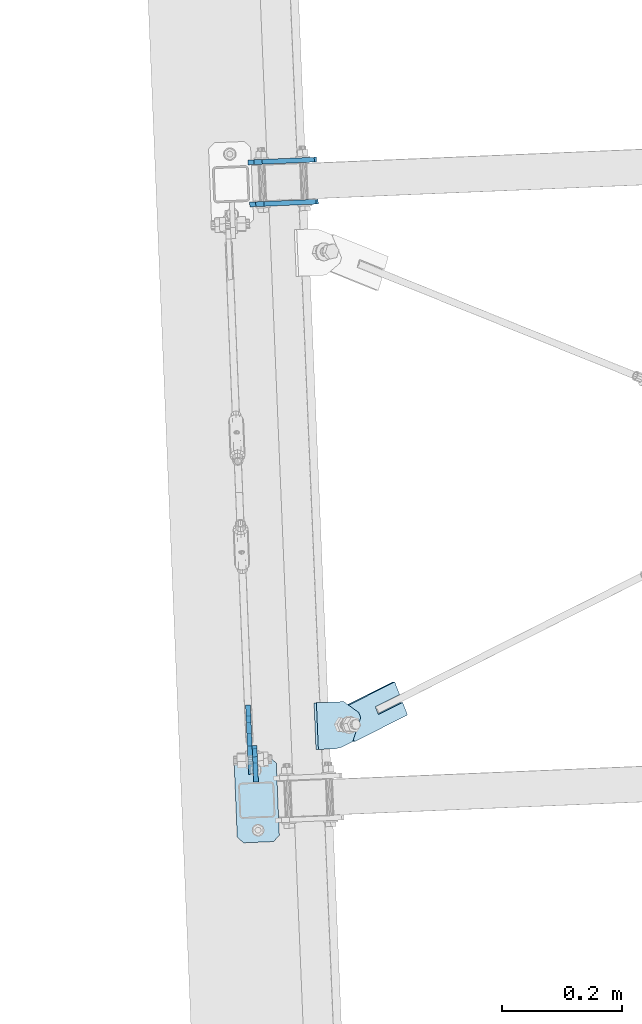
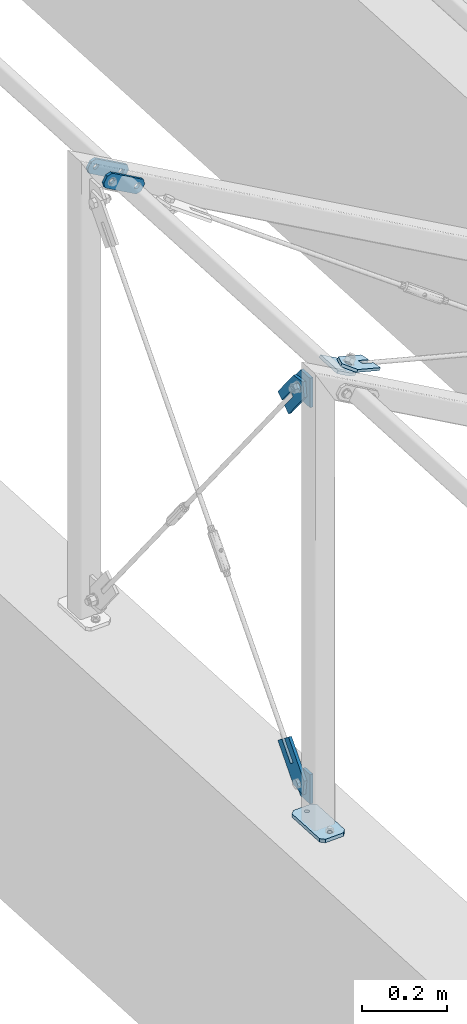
# One storey, part 37 of 288: 9 plates, 38 openings.
"""IFC2X3 building model written with IfcOpenShell, lengths in millimetres."""

from ifc_helpers import new_model, entity, si_unit, converted_unit, point, frame, frame_2d, origin, origin_with_axes, origin_2d_with_axis, place, context, project, spatial, polyline, circle_curve, line_curve, trimmed, segment, composite_curve, circle, outline, extrude, material, layer, layer_set, element, save


model = new_model("IFC2X3")

# Units and contexts
model_context = context("Model", 3, precision=1e-09, world=origin_with_axes())
ifc_project = project(units=[si_unit("LENGTHUNIT", "METRE", prefix="MILLI"), si_unit("AREAUNIT", "SQUARE_METRE"), si_unit("VOLUMEUNIT", "CUBIC_METRE"), converted_unit("PLANEANGLEUNIT", "DEGREE", entity("IfcPlaneAngleMeasure", 0.01745329), si_unit("PLANEANGLEUNIT", "RADIAN"), dimensions=[0, 0, 0, 0, 0, 0, 0])], contexts=[model_context])

# Site, building, storey
site_placement = place(None, origin_with_axes())
site = spatial("IfcSite", under=ifc_project, at=site_placement, Name="Remont ?wietlik?w nad MC w NCPP w Opolu", CompositionType="ELEMENT")
building_placement = place(site_placement, origin_with_axes())
building = spatial("IfcBuilding", under=site, at=building_placement, Name="Konstrukcja 1", CompositionType="ELEMENT")
storey_placement = place(building_placement, origin_with_axes())
storey = spatial("IfcBuildingStorey", under=building, at=storey_placement, Name="Default Storey", CompositionType="ELEMENT", Elevation=0.0)

# Plate, openings
ifc_material = material(Name="S235")
ifc_layer_1 = layer(ifc_material, 8.0)
ifc_layer_set_1 = layer_set([ifc_layer_1], Name="S235")
plate_1_placement = place(None, frame((-310.095435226, 5025.103193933, 1232.680042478), z_axis=(-0.041662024, 0.999131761, 1.7472e-05), x_axis=(0.499566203, 0.020815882, 0.866025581)))
plate_1 = element("IfcPlate", 1, at=plate_1_placement, inside=storey, material=ifc_layer_set_1, Name="-", ObjectType="-", context=model_context, shape_type="SweptSolid", body=[
    extrude(outline(polyline([(0.0, 0.0), (40.0, 0.0), (40.0, 120.0), (0.0, 120.0), (0.0, 0.0)])), origin_with_axes(), (0.0, 0.0, 1.0), 8.0),
])
opening_1_placement = place(plate_1_placement, frame((0.0, 0.0, -0.01), z_axis=(0.0, 0.0, 1.0), x_axis=(1.0, 0.0, 0.0)))
element("IfcOpeningElement", 2, at=opening_1_placement, cuts=plate_1, ObjectType="Opening", context=model_context, shape_type="SweptSolid", body=[
    extrude(outline(composite_curve([segment(trimmed(line_curve((40.0, 0.0), (0.0, 1.0), 10.0), [point((40.0, 0.0))], [point((40.0, 10.0))], True, "CARTESIAN"), True, "CONTINUOUS"), segment(trimmed(circle_curve(frame_2d((30.0, 10.0), x_axis=(-1.0, 0.0)), 10.0), [point((40.0, 10.0))], [point((30.0, 0.0))], False, "CARTESIAN"), True, "CONTINUOUS"), segment(trimmed(line_curve((30.0, 0.0), (1.0, 0.0), 10.0), [point((30.0, 0.0))], [point((40.0, 0.0))], True, "CARTESIAN"), True, "CONTINUOUS")], self_intersect=False)), origin(), (0.0, 0.0, 1.0), 8.02),
])
opening_2_placement = place(plate_1_placement, frame((0.0, 0.0, -0.01), z_axis=(0.0, 0.0, 1.0), x_axis=(1.0, 0.0, 0.0)))
element("IfcOpeningElement", 3, at=opening_2_placement, cuts=plate_1, ObjectType="Opening", context=model_context, shape_type="SweptSolid", body=[
    extrude(outline(composite_curve([segment(trimmed(line_curve((0.0, 0.0), (1.0, 0.0), 10.0), [point((0.0, 0.0))], [point((10.0, 0.0))], True, "CARTESIAN"), True, "CONTINUOUS"), segment(trimmed(circle_curve(frame_2d((10.0, 10.0), x_axis=(-1.0, 0.0)), 10.0), [point((10.0, 0.0))], [point((0.0, 10.0))], False, "CARTESIAN"), True, "CONTINUOUS"), segment(trimmed(line_curve((0.0, 10.0), (0.0, -1.0), 10.0), [point((0.0, 10.0))], [point((0.0, 0.0))], True, "CARTESIAN"), True, "CONTINUOUS")], self_intersect=False)), origin(), (0.0, 0.0, 1.0), 8.02),
])
opening_3_placement = place(plate_1_placement, frame((0.0, 0.0, -0.01), z_axis=(0.0, 0.0, 1.0), x_axis=(1.0, 0.0, 0.0)))
element("IfcOpeningElement", 4, at=opening_3_placement, cuts=plate_1, ObjectType="Opening", context=model_context, shape_type="SweptSolid", body=[
    extrude(outline(composite_curve([segment(trimmed(line_curve((40.0, 120.0), (-1.0, 0.0), 10.0), [point((40.0, 120.0))], [point((30.0, 120.0))], True, "CARTESIAN"), True, "CONTINUOUS"), segment(trimmed(circle_curve(frame_2d((30.0, 110.0), x_axis=(-1.0, 0.0)), 10.0), [point((30.0, 120.0))], [point((40.0, 110.0))], False, "CARTESIAN"), True, "CONTINUOUS"), segment(trimmed(line_curve((40.0, 110.0), (0.0, 1.0), 10.0), [point((40.0, 110.0))], [point((40.0, 120.0))], True, "CARTESIAN"), True, "CONTINUOUS")], self_intersect=False)), origin(), (0.0, 0.0, 1.0), 8.02),
])
opening_4_placement = place(plate_1_placement, frame((0.0, 0.0, -0.01), z_axis=(0.0, 0.0, 1.0), x_axis=(1.0, 0.0, 0.0)))
element("IfcOpeningElement", 5, at=opening_4_placement, cuts=plate_1, ObjectType="Opening", context=model_context, shape_type="SweptSolid", body=[
    extrude(outline(composite_curve([segment(trimmed(line_curve((0.0, 120.0), (0.0, -1.0), 10.0), [point((0.0, 120.0))], [point((0.0, 110.0))], True, "CARTESIAN"), True, "CONTINUOUS"), segment(trimmed(circle_curve(frame_2d((10.0, 110.0), x_axis=(-1.0, 0.0)), 10.0), [point((0.0, 110.0))], [point((10.0, 120.0))], False, "CARTESIAN"), True, "CONTINUOUS"), segment(trimmed(line_curve((10.0, 120.0), (-1.0, 0.0), 10.0), [point((10.0, 120.0))], [point((0.0, 120.0))], True, "CARTESIAN"), True, "CONTINUOUS")], self_intersect=False)), origin(), (0.0, 0.0, 1.0), 8.02),
])
opening_5_placement = place(plate_1_placement, frame((12.999, 20.0, 8.5), z_axis=(0.0, 0.0, 1.0), x_axis=(1.0, 0.0, 0.0)))
element("IfcOpeningElement", 6, at=opening_5_placement, cuts=plate_1, ObjectType="Opening", context=model_context, shape_type="SweptSolid", body=[
    extrude(circle(Radius=7.001, at=frame_2d((7.001, 0.0), x_axis=(1.0, 0.0))), origin(), (0.0, 0.0, -1.0), 9.0),
])
opening_6_placement = place(plate_1_placement, frame((12.999, 100.0, 8.5), z_axis=(0.0, 0.0, 1.0), x_axis=(1.0, 0.0, 0.0)))
element("IfcOpeningElement", 7, at=opening_6_placement, cuts=plate_1, ObjectType="Opening", context=model_context, shape_type="SweptSolid", body=[
    extrude(circle(Radius=7.001, at=frame_2d((7.001, 0.0), x_axis=(1.0, 0.0))), origin(), (0.0, 0.0, -1.0), 9.0),
])

plate_2_placement = place(None, frame((-307.179093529, 4955.163970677, 1232.678819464), z_axis=(-0.041662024, 0.999131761, 1.7472e-05), x_axis=(0.499566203, 0.020815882, 0.866025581)))
plate_2 = element("IfcPlate", 8, at=plate_2_placement, inside=storey, material=ifc_layer_set_1, Name="-", ObjectType="-", context=model_context, shape_type="SweptSolid", body=[
    extrude(outline(polyline([(0.0, 0.0), (40.0, 0.0), (40.0, 120.0), (0.0, 120.0), (0.0, 0.0)])), origin_with_axes(), (0.0, 0.0, 1.0), 8.0),
])
opening_7_placement = place(plate_2_placement, frame((0.0, 0.0, -0.01), z_axis=(0.0, 0.0, 1.0), x_axis=(1.0, 0.0, 0.0)))
element("IfcOpeningElement", 9, at=opening_7_placement, cuts=plate_2, ObjectType="Opening", context=model_context, shape_type="SweptSolid", body=[
    extrude(outline(composite_curve([segment(trimmed(line_curve((40.0, 0.0), (0.0, 1.0), 10.0), [point((40.0, 0.0))], [point((40.0, 10.0))], True, "CARTESIAN"), True, "CONTINUOUS"), segment(trimmed(circle_curve(frame_2d((30.0, 10.0), x_axis=(-1.0, 0.0)), 10.0), [point((40.0, 10.0))], [point((30.0, 0.0))], False, "CARTESIAN"), True, "CONTINUOUS"), segment(trimmed(line_curve((30.0, 0.0), (1.0, 0.0), 10.0), [point((30.0, 0.0))], [point((40.0, 0.0))], True, "CARTESIAN"), True, "CONTINUOUS")], self_intersect=False)), origin(), (0.0, 0.0, 1.0), 8.02),
])
opening_8_placement = place(plate_2_placement, frame((0.0, 0.0, -0.01), z_axis=(0.0, 0.0, 1.0), x_axis=(1.0, 0.0, 0.0)))
element("IfcOpeningElement", 10, at=opening_8_placement, cuts=plate_2, ObjectType="Opening", context=model_context, shape_type="SweptSolid", body=[
    extrude(outline(composite_curve([segment(trimmed(line_curve((0.0, 0.0), (1.0, 0.0), 10.0), [point((0.0, 0.0))], [point((10.0, 0.0))], True, "CARTESIAN"), True, "CONTINUOUS"), segment(trimmed(circle_curve(frame_2d((10.0, 10.0), x_axis=(-1.0, 0.0)), 10.0), [point((10.0, 0.0))], [point((0.0, 10.0))], False, "CARTESIAN"), True, "CONTINUOUS"), segment(trimmed(line_curve((0.0, 10.0), (0.0, -1.0), 10.0), [point((0.0, 10.0))], [point((0.0, 0.0))], True, "CARTESIAN"), True, "CONTINUOUS")], self_intersect=False)), origin(), (0.0, 0.0, 1.0), 8.02),
])
opening_9_placement = place(plate_2_placement, frame((0.0, 0.0, -0.01), z_axis=(0.0, 0.0, 1.0), x_axis=(1.0, 0.0, 0.0)))
element("IfcOpeningElement", 11, at=opening_9_placement, cuts=plate_2, ObjectType="Opening", context=model_context, shape_type="SweptSolid", body=[
    extrude(outline(composite_curve([segment(trimmed(line_curve((40.0, 120.0), (-1.0, 0.0), 10.0), [point((40.0, 120.0))], [point((30.0, 120.0))], True, "CARTESIAN"), True, "CONTINUOUS"), segment(trimmed(circle_curve(frame_2d((30.0, 110.0), x_axis=(-1.0, 0.0)), 10.0), [point((30.0, 120.0))], [point((40.0, 110.0))], False, "CARTESIAN"), True, "CONTINUOUS"), segment(trimmed(line_curve((40.0, 110.0), (0.0, 1.0), 10.0), [point((40.0, 110.0))], [point((40.0, 120.0))], True, "CARTESIAN"), True, "CONTINUOUS")], self_intersect=False)), origin(), (0.0, 0.0, 1.0), 8.02),
])
opening_10_placement = place(plate_2_placement, frame((0.0, 0.0, -0.01), z_axis=(0.0, 0.0, 1.0), x_axis=(1.0, 0.0, 0.0)))
element("IfcOpeningElement", 12, at=opening_10_placement, cuts=plate_2, ObjectType="Opening", context=model_context, shape_type="SweptSolid", body=[
    extrude(outline(composite_curve([segment(trimmed(line_curve((0.0, 120.0), (0.0, -1.0), 10.0), [point((0.0, 120.0))], [point((0.0, 110.0))], True, "CARTESIAN"), True, "CONTINUOUS"), segment(trimmed(circle_curve(frame_2d((10.0, 110.0), x_axis=(-1.0, 0.0)), 10.0), [point((0.0, 110.0))], [point((10.0, 120.0))], False, "CARTESIAN"), True, "CONTINUOUS"), segment(trimmed(line_curve((10.0, 120.0), (-1.0, 0.0), 10.0), [point((10.0, 120.0))], [point((0.0, 120.0))], True, "CARTESIAN"), True, "CONTINUOUS")], self_intersect=False)), origin(), (0.0, 0.0, 1.0), 8.02),
])
opening_11_placement = place(plate_2_placement, frame((12.999, 20.0, 8.5), z_axis=(0.0, 0.0, 1.0), x_axis=(1.0, 0.0, 0.0)))
element("IfcOpeningElement", 13, at=opening_11_placement, cuts=plate_2, ObjectType="Opening", context=model_context, shape_type="SweptSolid", body=[
    extrude(circle(Radius=7.001, at=frame_2d((7.001, 0.0), x_axis=(1.0, 0.0))), origin(), (0.0, 0.0, -1.0), 9.0),
])
opening_12_placement = place(plate_2_placement, frame((12.999, 100.0, 8.5), z_axis=(0.0, 0.0, 1.0), x_axis=(1.0, 0.0, 0.0)))
element("IfcOpeningElement", 14, at=opening_12_placement, cuts=plate_2, ObjectType="Opening", context=model_context, shape_type="SweptSolid", body=[
    extrude(circle(Radius=7.001, at=frame_2d((7.001, 0.0), x_axis=(1.0, 0.0))), origin(), (0.0, 0.0, -1.0), 9.0),
])

ifc_layer_2 = layer(ifc_material, 10.0)
ifc_layer_set_2 = layer_set([ifc_layer_2], Name="S235")
plate_3_placement = place(None, frame((-252.746744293, 3901.059228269, 10.00000004), z_axis=(0.0, 0.0, -1.0), x_axis=(-0.999131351, -0.041671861, 0.0)))
plate_3 = element("IfcPlate", 15, at=plate_3_placement, inside=storey, material=ifc_layer_set_2, Name="Baseplate", ObjectType="Baseplate", context=model_context, shape_type="SweptSolid", body=[
    extrude(outline(polyline([(0.0, 0.0), (70.0, 0.0), (70.0, 140.0), (0.0, 140.0), (0.0, 0.0)])), origin_with_axes(), (0.0, 0.0, 1.0), 10.0),
])
opening_13_placement = place(plate_3_placement, frame((0.0, 0.0, -0.01), z_axis=(0.0, 0.0, 1.0), x_axis=(1.0, 0.0, 0.0)))
element("IfcOpeningElement", 16, at=opening_13_placement, cuts=plate_3, ObjectType="Opening", context=model_context, shape_type="SweptSolid", body=[
    extrude(outline(composite_curve([segment(trimmed(line_curve((70.0, 0.0), (0.0, 1.0), 10.0), [point((70.0, 0.0))], [point((70.0, 10.0))], True, "CARTESIAN"), True, "CONTINUOUS"), segment(trimmed(circle_curve(frame_2d((60.0, 10.0), x_axis=(-1.0, 0.0)), 10.0), [point((70.0, 10.0))], [point((60.0, 0.0))], False, "CARTESIAN"), True, "CONTINUOUS"), segment(trimmed(line_curve((60.0, 0.0), (1.0, 0.0), 10.0), [point((60.0, 0.0))], [point((70.0, 0.0))], True, "CARTESIAN"), True, "CONTINUOUS")], self_intersect=False)), origin(), (0.0, 0.0, 1.0), 10.02),
])
opening_14_placement = place(plate_3_placement, frame((0.0, 0.0, -0.01), z_axis=(0.0, 0.0, 1.0), x_axis=(1.0, 0.0, 0.0)))
element("IfcOpeningElement", 17, at=opening_14_placement, cuts=plate_3, ObjectType="Opening", context=model_context, shape_type="SweptSolid", body=[
    extrude(outline(composite_curve([segment(trimmed(line_curve((0.0, 0.0), (1.0, 0.0), 10.0), [point((0.0, 0.0))], [point((10.0, 0.0))], True, "CARTESIAN"), True, "CONTINUOUS"), segment(trimmed(circle_curve(frame_2d((10.0, 10.0), x_axis=(-1.0, 0.0)), 10.0), [point((10.0, 0.0))], [point((0.0, 10.0))], False, "CARTESIAN"), True, "CONTINUOUS"), segment(trimmed(line_curve((0.0, 10.0), (0.0, -1.0), 10.0), [point((0.0, 10.0))], [point((0.0, 0.0))], True, "CARTESIAN"), True, "CONTINUOUS")], self_intersect=False)), origin(), (0.0, 0.0, 1.0), 10.02),
])
opening_15_placement = place(plate_3_placement, frame((0.0, 0.0, -0.01), z_axis=(0.0, 0.0, 1.0), x_axis=(1.0, 0.0, 0.0)))
element("IfcOpeningElement", 18, at=opening_15_placement, cuts=plate_3, ObjectType="Opening", context=model_context, shape_type="SweptSolid", body=[
    extrude(outline(composite_curve([segment(trimmed(line_curve((70.0, 140.0), (-1.0, 0.0), 10.0), [point((70.0, 140.0))], [point((60.0, 140.0))], True, "CARTESIAN"), True, "CONTINUOUS"), segment(trimmed(circle_curve(frame_2d((60.0, 130.0), x_axis=(-1.0, 0.0)), 10.0), [point((60.0, 140.0))], [point((70.0, 130.0))], False, "CARTESIAN"), True, "CONTINUOUS"), segment(trimmed(line_curve((70.0, 130.0), (0.0, 1.0), 10.0), [point((70.0, 130.0))], [point((70.0, 140.0))], True, "CARTESIAN"), True, "CONTINUOUS")], self_intersect=False)), origin(), (0.0, 0.0, 1.0), 10.02),
])
opening_16_placement = place(plate_3_placement, frame((0.0, 0.0, -0.01), z_axis=(0.0, 0.0, 1.0), x_axis=(1.0, 0.0, 0.0)))
element("IfcOpeningElement", 19, at=opening_16_placement, cuts=plate_3, ObjectType="Opening", context=model_context, shape_type="SweptSolid", body=[
    extrude(outline(composite_curve([segment(trimmed(line_curve((0.0, 140.0), (0.0, -1.0), 10.0), [point((0.0, 140.0))], [point((0.0, 130.0))], True, "CARTESIAN"), True, "CONTINUOUS"), segment(trimmed(circle_curve(frame_2d((10.0, 130.0), x_axis=(-1.0, 0.0)), 10.0), [point((0.0, 130.0))], [point((10.0, 140.0))], False, "CARTESIAN"), True, "CONTINUOUS"), segment(trimmed(line_curve((10.0, 140.0), (-1.0, 0.0), 10.0), [point((10.0, 140.0))], [point((0.0, 140.0))], True, "CARTESIAN"), True, "CONTINUOUS")], self_intersect=False)), origin(), (0.0, 0.0, 1.0), 10.02),
])
opening_17_placement = place(plate_3_placement, frame((35.0, 120.0, 10.5), z_axis=(0.0, 0.0, -1.0), x_axis=(1.0, 0.0, 0.0)))
element("IfcOpeningElement", 20, at=opening_17_placement, cuts=plate_3, ObjectType="Opening", context=model_context, shape_type="SweptSolid", body=[
    extrude(circle(Radius=6.001, at=origin_2d_with_axis()), origin(), (0.0, 0.0, 1.0), 11.0),
])
opening_18_placement = place(plate_3_placement, frame((35.0, 20.0, 10.5), z_axis=(0.0, 0.0, -1.0), x_axis=(1.0, 0.0, 0.0)))
element("IfcOpeningElement", 21, at=opening_18_placement, cuts=plate_3, ObjectType="Opening", context=model_context, shape_type="SweptSolid", body=[
    extrude(circle(Radius=6.001, at=origin_2d_with_axis()), origin(), (0.0, 0.0, 1.0), 11.0),
])

plate_4_placement = place(None, frame((-301.23972739, 4127.80552716, 1151.590299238), z_axis=(-0.999130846, -0.041683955, 0.0), x_axis=(0.032787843, -0.785898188, -0.617486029)))
plate_4 = element("IfcPlate", 22, at=plate_4_placement, inside=storey, material=ifc_layer_set_1, Name="Tab_Plate#2", ObjectType="Tab_Plate#2", context=model_context, shape_type="SweptSolid", body=[
    extrude(outline(polyline([(0.0, 0.0), (60.0, 0.0), (60.0, 140.0), (0.0, 140.0), (0.0, 0.0)])), origin_with_axes(), (0.0, 0.0, 1.0), 8.0),
])
opening_19_placement = place(plate_4_placement, frame((0.0, 0.0, -0.01), z_axis=(0.0, 0.0, 1.0), x_axis=(1.0, 0.0, 0.0)))
element("IfcOpeningElement", 23, at=opening_19_placement, cuts=plate_4, ObjectType="Opening", context=model_context, shape_type="SweptSolid", body=[
    extrude(outline(composite_curve([segment(trimmed(line_curve((60.0, 140.0), (-1.0, 0.0), 30.0), [point((60.0, 140.0))], [point((30.0, 140.0))], True, "CARTESIAN"), True, "CONTINUOUS"), segment(trimmed(circle_curve(frame_2d((30.0, 110.0), x_axis=(-1.0, 0.0)), 30.0), [point((30.0, 140.0))], [point((60.0, 110.0))], False, "CARTESIAN"), True, "CONTINUOUS"), segment(trimmed(line_curve((60.0, 110.0), (0.0, 1.0), 30.0), [point((60.0, 110.0))], [point((60.0, 140.0))], True, "CARTESIAN"), True, "CONTINUOUS")], self_intersect=False)), origin(), (0.0, 0.0, 1.0), 8.02),
])
opening_20_placement = place(plate_4_placement, frame((0.0, 0.0, -0.01), z_axis=(0.0, 0.0, 1.0), x_axis=(1.0, 0.0, 0.0)))
element("IfcOpeningElement", 24, at=opening_20_placement, cuts=plate_4, ObjectType="Opening", context=model_context, shape_type="SweptSolid", body=[
    extrude(outline(composite_curve([segment(trimmed(line_curve((0.0, 140.0), (0.0, -1.0), 30.0), [point((0.0, 140.0))], [point((0.0, 110.0))], True, "CARTESIAN"), True, "CONTINUOUS"), segment(trimmed(circle_curve(frame_2d((30.0, 110.0), x_axis=(-1.0, 0.0)), 30.0), [point((0.0, 110.0))], [point((30.0, 140.0))], False, "CARTESIAN"), True, "CONTINUOUS"), segment(trimmed(line_curve((30.0, 140.0), (-1.0, 0.0), 30.0), [point((30.0, 140.0))], [point((0.0, 140.0))], True, "CARTESIAN"), True, "CONTINUOUS")], self_intersect=False)), origin(), (0.0, 0.0, 1.0), 8.02),
])
opening_21_placement = place(plate_4_placement, frame((0.0, 0.0, 8.1), z_axis=(0.0, 0.0, -1.0), x_axis=(-0.786581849, -0.617486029, 0.0)))
element("IfcOpeningElement", 25, at=opening_21_placement, cuts=plate_4, ObjectType="Opening", context=model_context, shape_type="SweptSolid", body=[
    extrude(outline(polyline([(-55.757861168, 33.780718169), (-66.771580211, 25.134678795), (-29.103697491, -22.848387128), (-18.089978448, -14.202347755), (-55.757861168, 33.780718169)])), origin(), (0.0, 0.0, 1.0), 8.2),
])
opening_22_placement = place(plate_4_placement, frame((30.0, 110.0, 8.5), z_axis=(0.0, 0.0, -1.0), x_axis=(0.0, -1.0, 0.0)))
element("IfcOpeningElement", 26, at=opening_22_placement, cuts=plate_4, ObjectType="Opening", context=model_context, shape_type="SweptSolid", body=[
    extrude(circle(Radius=9.001, at=origin_2d_with_axis()), origin(), (0.0, 0.0, 1.0), 9.0),
])

plate_5_placement = place(None, frame((-297.21331604, 4031.295688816, 1177.467685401), z_axis=(0.999130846, 0.041683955, 0.0), x_axis=(-0.032787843, 0.785898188, 0.617486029)))
plate_5 = element("IfcPlate", 27, at=plate_5_placement, inside=storey, material=ifc_layer_set_1, Name="Gusset#2", ObjectType="Gusset#2", context=model_context, shape_type="SweptSolid", body=[
    extrude(outline(polyline([(0.0, 0.0), (60.0, 0.0), (60.0, 60.0), (26.867532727, 86.009798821), (-25.152005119, 19.744940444), (0.0, 0.0)])), origin_with_axes(), (0.0, 0.0, 1.0), 8.0),
])
opening_23_placement = place(plate_5_placement, frame((30.0, 30.0, -0.5), z_axis=(0.0, 0.0, 1.0), x_axis=(0.0, -1.0, 0.0)))
element("IfcOpeningElement", 28, at=opening_23_placement, cuts=plate_5, ObjectType="Opening", context=model_context, shape_type="SweptSolid", body=[
    extrude(circle(Radius=9.001, at=origin_2d_with_axis()), origin(), (0.0, 0.0, 1.0), 9.0),
])
opening_24_placement = place(plate_5_placement, frame((0.0, 0.0, -0.01), z_axis=(0.0, 0.0, 1.0), x_axis=(1.0, 0.0, 0.0)))
element("IfcOpeningElement", 29, at=opening_24_placement, cuts=plate_5, ObjectType="Opening", context=model_context, shape_type="SweptSolid", body=[
    extrude(outline(composite_curve([segment(trimmed(line_curve((60.0, 0.0), (0.0, 1.0), 30.0), [point((60.0, 0.0))], [point((60.0, 30.0))], True, "CARTESIAN"), True, "CONTINUOUS"), segment(trimmed(circle_curve(frame_2d((30.0, 30.0), x_axis=(-1.0, 0.0)), 30.0), [point((60.0, 30.0))], [point((30.0, 0.0))], False, "CARTESIAN"), True, "CONTINUOUS"), segment(trimmed(line_curve((30.0, 0.0), (1.0, 0.0), 30.0), [point((30.0, 0.0))], [point((60.0, 0.0))], True, "CARTESIAN"), True, "CONTINUOUS")], self_intersect=False)), origin(), (0.0, 0.0, 1.0), 8.02),
])

plate_6_placement = place(None, frame((-309.241332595, 4127.471795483, 153.409700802), z_axis=(0.999131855, 0.041659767, 0.0), x_axis=(0.032768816, -0.785898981, 0.617486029)))
plate_6 = element("IfcPlate", 30, at=plate_6_placement, inside=storey, material=ifc_layer_set_1, Name="Tab_Plate#1", ObjectType="Tab_Plate#1", context=model_context, shape_type="SweptSolid", body=[
    extrude(outline(polyline([(0.0, 0.0), (60.0, 0.0), (60.0, 140.0), (0.0, 140.0), (0.0, 0.0)])), origin_with_axes(), (0.0, 0.0, 1.0), 8.0),
])
opening_25_placement = place(plate_6_placement, frame((0.0, 0.0, -0.01), z_axis=(0.0, 0.0, 1.0), x_axis=(1.0, 0.0, 0.0)))
element("IfcOpeningElement", 31, at=opening_25_placement, cuts=plate_6, ObjectType="Opening", context=model_context, shape_type="SweptSolid", body=[
    extrude(outline(composite_curve([segment(trimmed(line_curve((60.0, 140.0), (-1.0, 0.0), 30.0), [point((60.0, 140.0))], [point((30.0, 140.0))], True, "CARTESIAN"), True, "CONTINUOUS"), segment(trimmed(circle_curve(frame_2d((30.0, 110.0), x_axis=(-1.0, 0.0)), 30.0), [point((30.0, 140.0))], [point((60.0, 110.0))], False, "CARTESIAN"), True, "CONTINUOUS"), segment(trimmed(line_curve((60.0, 110.0), (0.0, 1.0), 30.0), [point((60.0, 110.0))], [point((60.0, 140.0))], True, "CARTESIAN"), True, "CONTINUOUS")], self_intersect=False)), origin(), (0.0, 0.0, 1.0), 8.02),
])
opening_26_placement = place(plate_6_placement, frame((0.0, 0.0, -0.01), z_axis=(0.0, 0.0, 1.0), x_axis=(1.0, 0.0, 0.0)))
element("IfcOpeningElement", 32, at=opening_26_placement, cuts=plate_6, ObjectType="Opening", context=model_context, shape_type="SweptSolid", body=[
    extrude(outline(composite_curve([segment(trimmed(line_curve((0.0, 140.0), (0.0, -1.0), 30.0), [point((0.0, 140.0))], [point((0.0, 110.0))], True, "CARTESIAN"), True, "CONTINUOUS"), segment(trimmed(circle_curve(frame_2d((30.0, 110.0), x_axis=(-1.0, 0.0)), 30.0), [point((0.0, 110.0))], [point((30.0, 140.0))], False, "CARTESIAN"), True, "CONTINUOUS"), segment(trimmed(line_curve((30.0, 140.0), (-1.0, 0.0), 30.0), [point((30.0, 140.0))], [point((0.0, 140.0))], True, "CARTESIAN"), True, "CONTINUOUS")], self_intersect=False)), origin(), (0.0, 0.0, 1.0), 8.02),
])
opening_27_placement = place(plate_6_placement, frame((0.0, 0.0, 8.1), z_axis=(0.0, 0.0, -1.0), x_axis=(0.786581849, 0.617486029, 0.0)))
element("IfcOpeningElement", 33, at=opening_27_placement, cuts=plate_6, ObjectType="Opening", context=model_context, shape_type="SweptSolid", body=[
    extrude(outline(polyline([(55.757861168, -33.780718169), (66.771580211, -25.134678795), (29.103697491, 22.848387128), (18.089978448, 14.202347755), (55.757861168, -33.780718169)])), origin(), (0.0, 0.0, 1.0), 8.2),
])
opening_28_placement = place(plate_6_placement, frame((30.0, 110.0, 8.5), z_axis=(0.0, 0.0, -1.0), x_axis=(0.0, -1.0, 0.0)))
element("IfcOpeningElement", 34, at=opening_28_placement, cuts=plate_6, ObjectType="Opening", context=model_context, shape_type="SweptSolid", body=[
    extrude(circle(Radius=9.001, at=origin_2d_with_axis()), origin(), (0.0, 0.0, 1.0), 9.0),
])

plate_7_placement = place(None, frame((-289.231148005, 4031.628415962, 127.532314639), z_axis=(-0.999131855, -0.041659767, 0.0), x_axis=(-0.032768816, 0.785898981, -0.617486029)))
plate_7 = element("IfcPlate", 35, at=plate_7_placement, inside=storey, material=ifc_layer_set_1, Name="Gusset#1", ObjectType="Gusset#1", context=model_context, shape_type="SweptSolid", body=[
    extrude(outline(polyline([(0.0, 0.0), (60.0, 0.0), (60.0, 60.0), (26.867685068, 86.009679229), (-25.151852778, 19.744820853), (0.0, 0.0)])), origin_with_axes(), (0.0, 0.0, 1.0), 8.0),
])
opening_29_placement = place(plate_7_placement, frame((30.0, 30.0, -0.5), z_axis=(0.0, 0.0, 1.0), x_axis=(0.0, -1.0, 0.0)))
element("IfcOpeningElement", 36, at=opening_29_placement, cuts=plate_7, ObjectType="Opening", context=model_context, shape_type="SweptSolid", body=[
    extrude(circle(Radius=9.001, at=origin_2d_with_axis()), origin(), (0.0, 0.0, 1.0), 9.0),
])
opening_30_placement = place(plate_7_placement, frame((0.0, 0.0, -0.01), z_axis=(0.0, 0.0, 1.0), x_axis=(1.0, 0.0, 0.0)))
element("IfcOpeningElement", 37, at=opening_30_placement, cuts=plate_7, ObjectType="Opening", context=model_context, shape_type="SweptSolid", body=[
    extrude(outline(composite_curve([segment(trimmed(line_curve((60.0, 0.0), (0.0, 1.0), 30.0), [point((60.0, 0.0))], [point((60.0, 30.0))], True, "CARTESIAN"), True, "CONTINUOUS"), segment(trimmed(circle_curve(frame_2d((30.0, 30.0), x_axis=(-1.0, 0.0)), 30.0), [point((60.0, 30.0))], [point((30.0, 0.0))], False, "CARTESIAN"), True, "CONTINUOUS"), segment(trimmed(line_curve((30.0, 0.0), (1.0, 0.0), 30.0), [point((30.0, 0.0))], [point((60.0, 0.0))], True, "CARTESIAN"), True, "CONTINUOUS")], self_intersect=False)), origin(), (0.0, 0.0, 1.0), 8.02),
])

plate_8_placement = place(None, frame((-44.126411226, 4110.844069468, 1128.554367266), z_axis=(0.500767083, 0.020865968, 0.865330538), x_axis=(-0.354146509, 0.917144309, 0.182829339)))
plate_8 = element("IfcPlate", 38, at=plate_8_placement, inside=storey, material=ifc_layer_set_1, Name="Tab_Plate#1", ObjectType="Tab_Plate#1", context=model_context, shape_type="SweptSolid", body=[
    extrude(outline(polyline([(0.0, 0.0), (60.0, 0.0), (60.0, 140.0), (0.0, 140.0), (0.0, 0.0)])), origin_with_axes(), (0.0, 0.0, 1.0), 8.0),
])
opening_31_placement = place(plate_8_placement, frame((0.0, 0.0, -0.01), z_axis=(0.0, 0.0, 1.0), x_axis=(1.0, 0.0, 0.0)))
element("IfcOpeningElement", 39, at=opening_31_placement, cuts=plate_8, ObjectType="Opening", context=model_context, shape_type="SweptSolid", body=[
    extrude(outline(composite_curve([segment(trimmed(line_curve((60.0, 140.0), (-1.0, 0.0), 30.0), [point((60.0, 140.0))], [point((30.0, 140.0))], True, "CARTESIAN"), True, "CONTINUOUS"), segment(trimmed(circle_curve(frame_2d((30.0, 110.0), x_axis=(-1.0, 0.0)), 30.0), [point((30.0, 140.0))], [point((60.0, 110.0))], False, "CARTESIAN"), True, "CONTINUOUS"), segment(trimmed(line_curve((60.0, 110.0), (0.0, 1.0), 30.0), [point((60.0, 110.0))], [point((60.0, 140.0))], True, "CARTESIAN"), True, "CONTINUOUS")], self_intersect=False)), origin(), (0.0, 0.0, 1.0), 8.02),
])
opening_32_placement = place(plate_8_placement, frame((0.0, 0.0, -0.01), z_axis=(0.0, 0.0, 1.0), x_axis=(1.0, 0.0, 0.0)))
element("IfcOpeningElement", 40, at=opening_32_placement, cuts=plate_8, ObjectType="Opening", context=model_context, shape_type="SweptSolid", body=[
    extrude(outline(composite_curve([segment(trimmed(line_curve((0.0, 140.0), (0.0, -1.0), 30.0), [point((0.0, 140.0))], [point((0.0, 110.0))], True, "CARTESIAN"), True, "CONTINUOUS"), segment(trimmed(circle_curve(frame_2d((30.0, 110.0), x_axis=(-1.0, 0.0)), 30.0), [point((0.0, 110.0))], [point((30.0, 140.0))], False, "CARTESIAN"), True, "CONTINUOUS"), segment(trimmed(line_curve((30.0, 140.0), (-1.0, 0.0), 30.0), [point((30.0, 140.0))], [point((0.0, 140.0))], True, "CARTESIAN"), True, "CONTINUOUS")], self_intersect=False)), origin(), (0.0, 0.0, 1.0), 8.02),
])
opening_33_placement = place(plate_8_placement, frame((0.0, 0.0, 8.1), z_axis=(0.0, 0.0, -1.0), x_axis=(-0.931092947, 0.364782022, 0.0)))
element("IfcOpeningElement", 41, at=opening_33_placement, cuts=plate_8, ObjectType="Opening", context=model_context, shape_type="SweptSolid", body=[
    extrude(outline(polyline([(-2.809958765, 55.876293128), (-15.84712221, 60.983971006), (-34.451734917, 13.496368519), (-21.414571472, 8.388690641), (-2.809958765, 55.876293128)])), origin(), (0.0, 0.0, 1.0), 8.2),
])
opening_34_placement = place(plate_8_placement, frame((30.0, 110.0, 8.5), z_axis=(0.0, 0.0, -1.0), x_axis=(0.0, -1.0, 0.0)))
element("IfcOpeningElement", 42, at=opening_34_placement, cuts=plate_8, ObjectType="Opening", context=model_context, shape_type="SweptSolid", body=[
    extrude(circle(Radius=9.001, at=origin_2d_with_axis()), origin(), (0.0, 0.0, 1.0), 9.0),
])

plate_9_placement = place(None, frame((-128.560647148, 4134.032031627, 1176.857350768), z_axis=(-0.500767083, -0.020865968, -0.865330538), x_axis=(0.354146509, -0.917144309, -0.182829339)))
plate_9 = element("IfcPlate", 43, at=plate_9_placement, inside=storey, material=ifc_layer_set_1, Name="Gusset#1", ObjectType="Gusset#1", context=model_context, shape_type="SweptSolid", body=[
    extrude(outline(polyline([(0.0, 0.0), (60.0, 0.0), (60.0, 60.0), (45.826198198, 96.181831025), (-26.568490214, 67.822073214), (0.0, 0.0)])), origin_with_axes(), (0.0, 0.0, 1.0), 8.0),
])
opening_35_placement = place(plate_9_placement, frame((30.0, 30.0, -0.5), z_axis=(0.0, 0.0, 1.0), x_axis=(0.0, -1.0, 0.0)))
element("IfcOpeningElement", 44, at=opening_35_placement, cuts=plate_9, ObjectType="Opening", context=model_context, shape_type="SweptSolid", body=[
    extrude(circle(Radius=9.001, at=origin_2d_with_axis()), origin(), (0.0, 0.0, 1.0), 9.0),
])
opening_36_placement = place(plate_9_placement, frame((0.0, 0.0, -0.01), z_axis=(0.0, 0.0, 1.0), x_axis=(1.0, 0.0, 0.0)))
element("IfcOpeningElement", 45, at=opening_36_placement, cuts=plate_9, ObjectType="Opening", context=model_context, shape_type="SweptSolid", body=[
    extrude(outline(composite_curve([segment(trimmed(line_curve((0.0, 0.0), (1.0, 0.0), 20.467615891), [point((0.0, 0.0))], [point((20.467615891, 0.0))], True, "CARTESIAN"), True, "CONTINUOUS"), segment(trimmed(circle_curve(frame_2d((20.467615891, 30.0), x_axis=(-1.0, 0.0)), 30.0), [point((20.467615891, 0.0))], [point((-7.465553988, 19.057513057))], False, "CARTESIAN"), True, "CONTINUOUS"), segment(trimmed(line_curve((-7.465553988, 19.057513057), (0.364749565, -0.931105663), 20.467615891), [point((-7.465553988, 19.057513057))], [point((0.0, 0.0))], True, "CARTESIAN"), True, "CONTINUOUS")], self_intersect=False)), origin(), (0.0, 0.0, 1.0), 8.02),
])
opening_37_placement = place(plate_9_placement, frame((0.0, 0.0, -0.01), z_axis=(0.0, 0.0, 1.0), x_axis=(1.0, 0.0, 0.0)))
element("IfcOpeningElement", 46, at=opening_37_placement, cuts=plate_9, ObjectType="Opening", context=model_context, shape_type="SweptSolid", body=[
    extrude(outline(composite_curve([segment(trimmed(line_curve((60.0, 0.0), (0.0, 1.0), 30.0), [point((60.0, 0.0))], [point((60.0, 30.0))], True, "CARTESIAN"), True, "CONTINUOUS"), segment(trimmed(circle_curve(frame_2d((30.0, 30.0), x_axis=(-1.0, 0.0)), 30.0), [point((60.0, 30.0))], [point((30.0, 0.0))], False, "CARTESIAN"), True, "CONTINUOUS"), segment(trimmed(line_curve((30.0, 0.0), (1.0, 0.0), 30.0), [point((30.0, 0.0))], [point((60.0, 0.0))], True, "CARTESIAN"), True, "CONTINUOUS")], self_intersect=False)), origin(), (0.0, 0.0, 1.0), 8.02),
])
opening_38_placement = place(plate_9_placement, frame((0.0, 0.0, -0.01), z_axis=(0.0, 0.0, 1.0), x_axis=(1.0, 0.0, 0.0)))
element("IfcOpeningElement", 47, at=opening_38_placement, cuts=plate_9, ObjectType="Opening", context=model_context, shape_type="SweptSolid", body=[
    extrude(outline(composite_curve([segment(trimmed(line_curve((60.0, 60.0), (-0.364749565, 0.931105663), 5.666436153), [point((60.0, 60.0))], [point((57.933169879, 65.276050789))], True, "CARTESIAN"), True, "CONTINUOUS"), segment(trimmed(circle_curve(frame_2d((30.0, 54.333563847), x_axis=(-1.0, 0.0)), 30.0), [point((57.933169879, 65.276050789))], [point((60.0, 54.333563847))], False, "CARTESIAN"), True, "CONTINUOUS"), segment(trimmed(line_curve((60.0, 54.333563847), (0.0, 1.0), 5.666436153), [point((60.0, 54.333563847))], [point((60.0, 60.0))], True, "CARTESIAN"), True, "CONTINUOUS")], self_intersect=False)), origin(), (0.0, 0.0, 1.0), 8.02),
])

save(model, "model.ifc")
